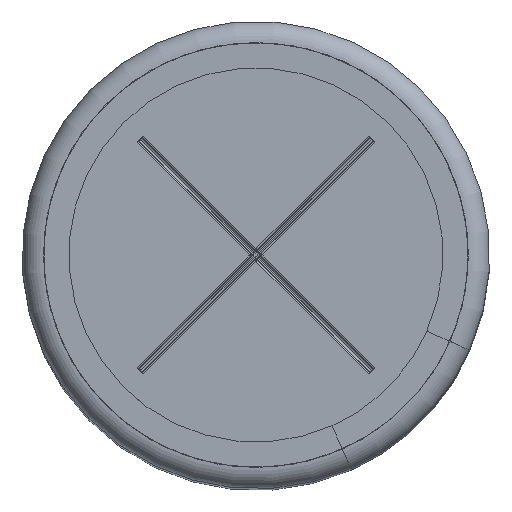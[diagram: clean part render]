
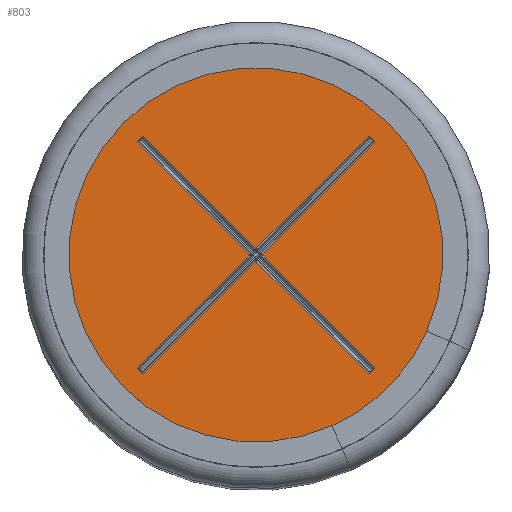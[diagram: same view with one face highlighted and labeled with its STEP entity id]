
A CAD part, top view. The second image highlights one B-rep face of the part: STEP entity #803.
In plain terms, the highlighted planar face has unit normal (0, 0, 1).
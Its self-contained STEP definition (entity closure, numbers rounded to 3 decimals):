
#176=FACE_BOUND('',#1284,.T.);
#177=FACE_BOUND('',#1285,.T.);
#687=PLANE('',#4047);
#803=ADVANCED_FACE('',(#176,#177),#687,.T.);
#1284=EDGE_LOOP('',(#2130));
#1285=EDGE_LOOP('',(#2131,#2132,#2133,#2134,#2135,#2136,#2137,#2138,#2139,
#2140,#2141,#2142));
#1517=LINE('',#5710,#1771);
#1518=LINE('',#5713,#1772);
#1519=LINE('',#5715,#1773);
#1520=LINE('',#5717,#1774);
#1521=LINE('',#5719,#1775);
#1522=LINE('',#5721,#1776);
#1523=LINE('',#5723,#1777);
#1524=LINE('',#5725,#1778);
#1525=LINE('',#5727,#1779);
#1526=LINE('',#5729,#1780);
#1527=LINE('',#5731,#1781);
#1528=LINE('',#5733,#1782);
#1771=VECTOR('',#4590,1.);
#1772=VECTOR('',#4591,1.);
#1773=VECTOR('',#4592,1.);
#1774=VECTOR('',#4593,1.);
#1775=VECTOR('',#4594,1.);
#1776=VECTOR('',#4595,1.);
#1777=VECTOR('',#4596,1.);
#1778=VECTOR('',#4597,1.);
#1779=VECTOR('',#4598,1.);
#1780=VECTOR('',#4599,1.);
#1781=VECTOR('',#4600,1.);
#1782=VECTOR('',#4601,1.);
#2130=ORIENTED_EDGE('',*,*,#3368,.F.);
#2131=ORIENTED_EDGE('',*,*,#3369,.T.);
#2132=ORIENTED_EDGE('',*,*,#3370,.T.);
#2133=ORIENTED_EDGE('',*,*,#3371,.T.);
#2134=ORIENTED_EDGE('',*,*,#3372,.F.);
#2135=ORIENTED_EDGE('',*,*,#3373,.T.);
#2136=ORIENTED_EDGE('',*,*,#3374,.T.);
#2137=ORIENTED_EDGE('',*,*,#3375,.F.);
#2138=ORIENTED_EDGE('',*,*,#3376,.T.);
#2139=ORIENTED_EDGE('',*,*,#3377,.T.);
#2140=ORIENTED_EDGE('',*,*,#3378,.T.);
#2141=ORIENTED_EDGE('',*,*,#3379,.T.);
#2142=ORIENTED_EDGE('',*,*,#3380,.T.);
#3038=VERTEX_POINT('',#5709);
#3039=VERTEX_POINT('',#5711);
#3040=VERTEX_POINT('',#5712);
#3041=VERTEX_POINT('',#5714);
#3042=VERTEX_POINT('',#5716);
#3043=VERTEX_POINT('',#5718);
#3044=VERTEX_POINT('',#5720);
#3045=VERTEX_POINT('',#5722);
#3046=VERTEX_POINT('',#5724);
#3047=VERTEX_POINT('',#5726);
#3048=VERTEX_POINT('',#5728);
#3049=VERTEX_POINT('',#5730);
#3050=VERTEX_POINT('',#5732);
#3368=EDGE_CURVE('',#3038,#3038,#3826,.T.);
#3369=EDGE_CURVE('',#3039,#3040,#1517,.T.);
#3370=EDGE_CURVE('',#3040,#3041,#1518,.T.);
#3371=EDGE_CURVE('',#3041,#3042,#1519,.T.);
#3372=EDGE_CURVE('',#3043,#3042,#1520,.T.);
#3373=EDGE_CURVE('',#3043,#3044,#1521,.T.);
#3374=EDGE_CURVE('',#3044,#3045,#1522,.T.);
#3375=EDGE_CURVE('',#3046,#3045,#1523,.T.);
#3376=EDGE_CURVE('',#3046,#3047,#1524,.T.);
#3377=EDGE_CURVE('',#3047,#3048,#1525,.T.);
#3378=EDGE_CURVE('',#3048,#3049,#1526,.T.);
#3379=EDGE_CURVE('',#3049,#3050,#1527,.T.);
#3380=EDGE_CURVE('',#3050,#3039,#1528,.T.);
#3826=CIRCLE('',#4046,10.);
#4046=AXIS2_PLACEMENT_3D('',#5708,#4588,#4589);
#4047=AXIS2_PLACEMENT_3D('',#5734,#4602,#4603);
#4588=DIRECTION('',(0.,0.,-1.));
#4589=DIRECTION('',(-1.,0.,0.));
#4590=DIRECTION('',(0.707,-0.707,0.));
#4591=DIRECTION('',(-0.707,-0.707,0.));
#4592=DIRECTION('',(0.707,-0.707,0.));
#4593=DIRECTION('',(0.707,0.707,0.));
#4594=DIRECTION('',(-0.707,0.707,0.));
#4595=DIRECTION('',(-0.707,-0.707,0.));
#4596=DIRECTION('',(0.707,-0.707,0.));
#4597=DIRECTION('',(0.707,0.707,0.));
#4598=DIRECTION('',(-0.707,0.707,0.));
#4599=DIRECTION('',(0.707,0.707,0.));
#4600=DIRECTION('',(0.707,-0.707,0.));
#4601=DIRECTION('',(0.707,0.707,0.));
#4602=DIRECTION('',(0.,0.,1.));
#4603=DIRECTION('',(1.,0.,0.));
#5708=CARTESIAN_POINT('',(0.,0.,49.8));
#5709=CARTESIAN_POINT('',(-10.,0.,49.8));
#5710=CARTESIAN_POINT('',(5.339,5.551,49.8));
#5711=CARTESIAN_POINT('',(5.295,5.594,49.8));
#5712=CARTESIAN_POINT('',(5.594,5.295,49.8));
#5713=CARTESIAN_POINT('',(-4.85,-5.15,49.8));
#5714=CARTESIAN_POINT('',(0.3,0.,49.8));
#5715=CARTESIAN_POINT('',(-4.85,5.15,49.8));
#5716=CARTESIAN_POINT('',(5.594,-5.295,49.8));
#5717=CARTESIAN_POINT('',(5.551,-5.339,49.8));
#5718=CARTESIAN_POINT('',(5.295,-5.594,49.8));
#5719=CARTESIAN_POINT('',(-5.15,4.85,49.8));
#5720=CARTESIAN_POINT('',(0.,-0.3,49.8));
#5721=CARTESIAN_POINT('',(-4.85,-5.15,49.8));
#5722=CARTESIAN_POINT('',(-5.295,-5.594,49.8));
#5723=CARTESIAN_POINT('',(-5.551,-5.339,49.8));
#5724=CARTESIAN_POINT('',(-5.594,-5.295,49.8));
#5725=CARTESIAN_POINT('',(-5.15,-4.85,49.8));
#5726=CARTESIAN_POINT('',(-0.3,0.,49.8));
#5727=CARTESIAN_POINT('',(-5.15,4.85,49.8));
#5728=CARTESIAN_POINT('',(-5.594,5.295,49.8));
#5729=CARTESIAN_POINT('',(-5.339,5.551,49.8));
#5730=CARTESIAN_POINT('',(-5.295,5.594,49.8));
#5731=CARTESIAN_POINT('',(-4.85,5.15,49.8));
#5732=CARTESIAN_POINT('',(0.,0.3,49.8));
#5733=CARTESIAN_POINT('',(-5.15,-4.85,49.8));
#5734=CARTESIAN_POINT('',(-10.,0.,49.8));
